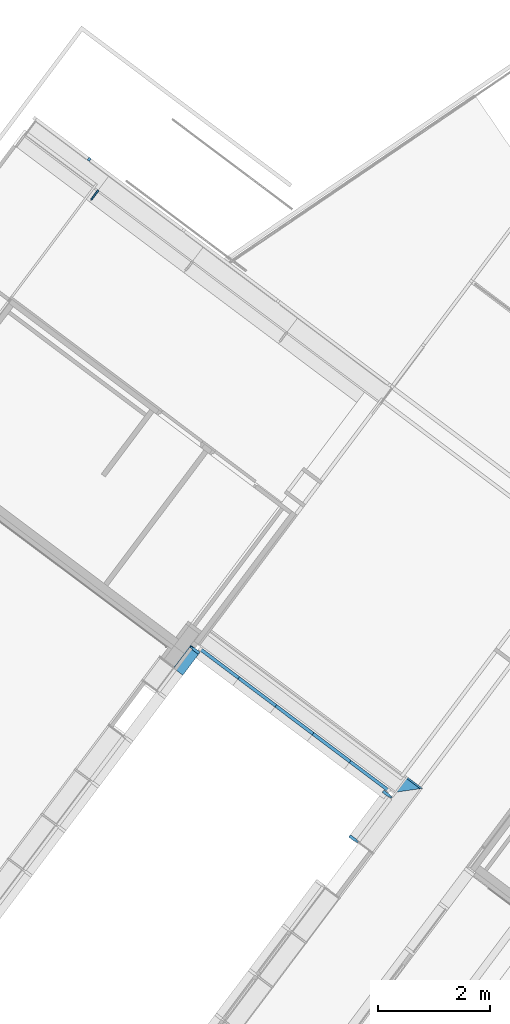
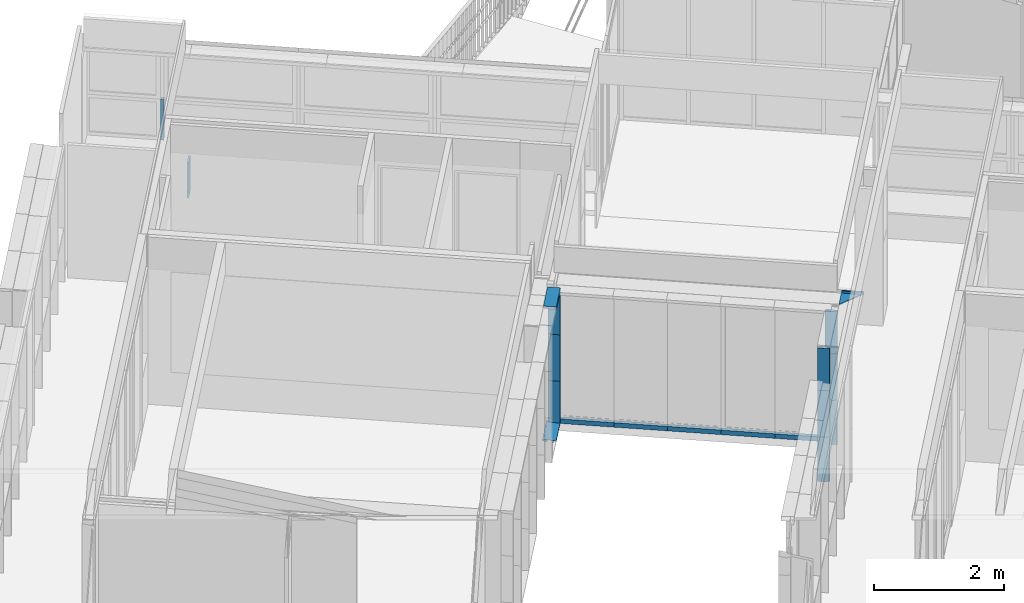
# One storey, part 101 of 243: 19 members, 6 elements without a shape of their own.
"""IFC2X3 building model written with IfcOpenShell, lengths in metres."""

from ifc_helpers import new_model, entity, si_unit, converted_unit, derived_unit, direction, frame, frame_2d, origin, place, context, subcontext, project, spatial, polyline, circle_curve, parameter, trimmed, segment, composite_curve, rectangle, outline, extrude, clip, halfspace, source, transform, mapped, material, type_object, type_shapes, element, aggregate, save


model = new_model("IFC2X3")

# Units and contexts
model_context = context("Model", 3, precision=1e-05, world=origin(), true_north=direction((6.123031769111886e-17, 1.0)))
body_context = subcontext(model_context, "Body", "Model", "MODEL_VIEW")
ifc_project = project(units=[si_unit("LENGTHUNIT", "METRE"), si_unit("AREAUNIT", "SQUARE_METRE"), si_unit("VOLUMEUNIT", "CUBIC_METRE"), converted_unit("PLANEANGLEUNIT", "DEGREE", entity("IfcRatioMeasure", 0.017453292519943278), si_unit("PLANEANGLEUNIT", "RADIAN"), dimensions=[0, 0, 0, 0, 0, 0, 0]), si_unit("MASSUNIT", "GRAM", prefix="KILO"), derived_unit("MASSDENSITYUNIT", [(si_unit("MASSUNIT", "GRAM", prefix="KILO"), 1), (si_unit("LENGTHUNIT", "METRE"), -3)]), derived_unit("IONCONCENTRATIONUNIT", [(si_unit("MASSUNIT", "GRAM", prefix="KILO"), 1), (si_unit("LENGTHUNIT", "METRE"), -3)]), derived_unit("MOMENTOFINERTIAUNIT", [(si_unit("LENGTHUNIT", "METRE"), 4)]), si_unit("TIMEUNIT", "SECOND"), si_unit("FREQUENCYUNIT", "HERTZ"), si_unit("THERMODYNAMICTEMPERATUREUNIT", "DEGREE_CELSIUS"), derived_unit("THERMALTRANSMITTANCEUNIT", [(si_unit("MASSUNIT", "GRAM", prefix="KILO"), 1), (si_unit("THERMODYNAMICTEMPERATUREUNIT", "KELVIN"), -1), (si_unit("TIMEUNIT", "SECOND"), -3)]), derived_unit("THERMALCONDUCTANCEUNIT", [(si_unit("MASSUNIT", "GRAM", prefix="KILO"), 1), (si_unit("THERMODYNAMICTEMPERATUREUNIT", "KELVIN"), -1), (si_unit("TIMEUNIT", "SECOND"), -3), (si_unit("LENGTHUNIT", "METRE"), 1)]), derived_unit("VOLUMETRICFLOWRATEUNIT", [(si_unit("LENGTHUNIT", "METRE"), 3), (si_unit("TIMEUNIT", "SECOND"), -1)]), derived_unit("MASSFLOWRATEUNIT", [(si_unit("MASSUNIT", "GRAM", prefix="KILO"), 1), (si_unit("TIMEUNIT", "SECOND"), -1)]), derived_unit("ROTATIONALFREQUENCYUNIT", [(si_unit("TIMEUNIT", "SECOND"), -1)]), si_unit("ELECTRICCURRENTUNIT", "AMPERE"), si_unit("ELECTRICVOLTAGEUNIT", "VOLT"), si_unit("POWERUNIT", "WATT"), si_unit("FORCEUNIT", "NEWTON", prefix="KILO"), si_unit("ILLUMINANCEUNIT", "LUX"), si_unit("LUMINOUSFLUXUNIT", "LUMEN"), si_unit("LUMINOUSINTENSITYUNIT", "CANDELA"), derived_unit("USERDEFINED", [(si_unit("MASSUNIT", "GRAM", prefix="KILO"), -1), (si_unit("LENGTHUNIT", "METRE"), -2), (si_unit("TIMEUNIT", "SECOND"), 3), (si_unit("LUMINOUSFLUXUNIT", "LUMEN"), 1)]), derived_unit("USERDEFINED", [(si_unit("MASSUNIT", "GRAM", prefix="KILO"), 1), (si_unit("TIMEUNIT", "SECOND"), -3), (si_unit("LENGTHUNIT", "METRE"), 3), (si_unit("ELECTRICCURRENTUNIT", "AMPERE"), -2)]), derived_unit("SOUNDPOWERUNIT", [(si_unit("MASSUNIT", "GRAM", prefix="KILO"), 1), (si_unit("TIMEUNIT", "SECOND"), -3), (si_unit("LENGTHUNIT", "METRE"), 2)]), derived_unit("SOUNDPRESSUREUNIT", [(si_unit("MASSUNIT", "GRAM", prefix="KILO"), 1), (si_unit("LENGTHUNIT", "METRE"), -1), (si_unit("TIMEUNIT", "SECOND"), -2)]), derived_unit("LINEARVELOCITYUNIT", [(si_unit("LENGTHUNIT", "METRE"), 1), (si_unit("TIMEUNIT", "SECOND"), -1)]), si_unit("PRESSUREUNIT", "PASCAL"), derived_unit("USERDEFINED", [(si_unit("MASSUNIT", "GRAM", prefix="KILO"), 1), (si_unit("LENGTHUNIT", "METRE"), -2), (si_unit("TIMEUNIT", "SECOND"), -2)]), derived_unit("LINEARFORCEUNIT", [(si_unit("MASSUNIT", "GRAM", prefix="KILO"), 1), (si_unit("TIMEUNIT", "SECOND"), -2)]), derived_unit("PLANARFORCEUNIT", [(si_unit("MASSUNIT", "GRAM", prefix="KILO"), 1), (si_unit("LENGTHUNIT", "METRE"), -1), (si_unit("TIMEUNIT", "SECOND"), -2)]), derived_unit("SPECIFICHEATCAPACITYUNIT", [(si_unit("THERMODYNAMICTEMPERATUREUNIT", "KELVIN"), -1), (si_unit("LENGTHUNIT", "METRE"), 2), (si_unit("TIMEUNIT", "SECOND"), -2)]), derived_unit("HEATINGVALUEUNIT", [(si_unit("LENGTHUNIT", "METRE"), 2), (si_unit("TIMEUNIT", "SECOND"), -2)]), derived_unit("VAPORPERMEABILITYUNIT", [(si_unit("LENGTHUNIT", "METRE"), -1), (si_unit("TIMEUNIT", "SECOND"), 1)]), derived_unit("DYNAMICVISCOSITYUNIT", [(si_unit("MASSUNIT", "GRAM", prefix="KILO"), 1), (si_unit("TIMEUNIT", "SECOND"), -1), (si_unit("LENGTHUNIT", "METRE"), -1)]), derived_unit("THERMALEXPANSIONCOEFFICIENTUNIT", [(si_unit("THERMODYNAMICTEMPERATUREUNIT", "KELVIN"), -1)]), derived_unit("MODULUSOFELASTICITYUNIT", [(si_unit("MASSUNIT", "GRAM", prefix="KILO"), 1), (si_unit("LENGTHUNIT", "METRE"), -1), (si_unit("TIMEUNIT", "SECOND"), -2)]), derived_unit("ISOTHERMALMOISTURECAPACITYUNIT", [(si_unit("LENGTHUNIT", "METRE"), 3), (si_unit("MASSUNIT", "GRAM", prefix="KILO"), -1)]), derived_unit("MOISTUREDIFFUSIVITYUNIT", [(si_unit("TIMEUNIT", "SECOND"), -1), (si_unit("LENGTHUNIT", "METRE"), 2)])], contexts=[model_context])

# Site, building, storey
site_placement = place(None, frame((0.0, 0.0, 235.0), z_axis=(0.0, 0.0, 1.0), x_axis=(-0.7996477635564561, 0.6004693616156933, 0.0)))
site = spatial("IfcSite", under=ifc_project, at=site_placement, Name="Default", CompositionType="ELEMENT")
building_placement = place(site_placement, origin())
building = spatial("IfcBuilding", under=site, at=building_placement, CompositionType="ELEMENT")
storey_placement = place(building_placement, origin())
storey = spatial("IfcBuildingStorey", under=building, at=storey_placement, Name="P0- Escola", CompositionType="ELEMENT", Elevation=0.0)

# Curtain wall, members
curtain_wall_type_1 = type_object("IfcCurtainWallType", Name="Muro cortina:MC- EXT- MC2", PredefinedType="NOTDEFINED")
curtain_wall_1_placement = place(storey_placement, origin())
curtain_wall_1 = element("IfcCurtainWall", 1, at=curtain_wall_1_placement, inside=storey, type_object=curtain_wall_type_1, Name="Muro cortina:MC- EXT- MC2", ObjectType="Muro cortina:MC- EXT- MC2")
ifc_material_1 = material(Name="_Alumini- T1- Perfil")
member_type_1 = type_object("IfcMemberType", Name="Montante rectangular:MC- Alu- 140x52,5 cm- Fa patis- Centre", PredefinedType="MULLION", material=ifc_material_1)
shared_shape_1 = source(origin(), body_context, "Body", "SweptSolid", [
    extrude(outline(polyline([(-0.11699999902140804, -0.026250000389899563), (0.021999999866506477, -0.026250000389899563), (0.021999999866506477, -0.015000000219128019), (0.07299999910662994, -0.015000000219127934), (0.07299999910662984, 0.015000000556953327), (0.02200000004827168, 0.015000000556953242), (0.02200000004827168, 0.026250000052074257), (-0.11699999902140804, 0.026250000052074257), (-0.11699999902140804, -0.026250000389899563)])), frame((-0.026250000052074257, 0.022999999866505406, -0.8750000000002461), z_axis=(0.0, 0.0, 1.0), x_axis=(0.0, -1.0, 0.0)), (0.0, 0.0, 1.0), 0.8750000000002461),
])
type_shapes(member_type_1, [shared_shape_1])
member_1_placement = place(curtain_wall_1_placement, frame((66.44514768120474, -36.44138994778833, 0.8200000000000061), z_axis=(0.0, 0.0, -1.0), x_axis=(0.0, -1.0, 0.0)))
member_1 = element("IfcMember", 2, at=member_1_placement, type_object=member_type_1, material=ifc_material_1, Name="Montante rectangular:MC- Alu- 140x52,5 cm- Fa patis- Centre", ObjectType="Montante rectangular:MC- Alu- 140x52,5 cm- Fa patis- Centre", context=body_context, shape_type="MappedRepresentation", body=[
    mapped(shared_shape_1, transform((0.0, 0.0, 0.0), scale=1.0)),
])
member_type_2 = type_object("IfcMemberType", Name="Montante rectangular:MC- Alu- 140x52,5 cm- Fa patis- Superior", PredefinedType="MULLION", material=ifc_material_1)
shared_shape_2 = source(origin(), body_context, "Body", "SweptSolid", [
    extrude(outline(polyline([(-0.11366666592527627, -0.021249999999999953), (0.02633333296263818, -0.021249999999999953), (0.02633333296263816, -0.010000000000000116), (0.08733333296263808, -0.010000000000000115), (0.08733333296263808, 0.03125000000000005), (-0.11366666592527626, 0.031250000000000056), (-0.11366666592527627, -0.021249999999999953)])), frame((-0.031250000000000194, 0.027333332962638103, -0.518199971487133), z_axis=(0.0, 0.0, 1.0), x_axis=(0.0, -1.0, 0.0)), (0.0, 0.0, 1.0), 0.518199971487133),
])
type_shapes(member_type_2, [shared_shape_2])
member_2_placement = place(curtain_wall_1_placement, frame((66.44514768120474, -36.44138994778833, 2.545), z_axis=(0.0, -1.0, 0.0), x_axis=(0.0, 0.0, 1.0)))
member_2 = element("IfcMember", 3, at=member_2_placement, type_object=member_type_2, material=ifc_material_1, Name="Montante rectangular:MC- Alu- 140x52,5 cm- Fa patis- Superior", ObjectType="Montante rectangular:MC- Alu- 140x52,5 cm- Fa patis- Superior", context=body_context, shape_type="MappedRepresentation", body=[
    mapped(shared_shape_2, transform((0.0, 0.0, 0.0), scale=1.0)),
])
member_type_3 = type_object("IfcMemberType", Name="Montante rectangular:MC- Alu- 140x52,5 cm- Fa patis- Centre", PredefinedType="MULLION", material=ifc_material_1)
shared_shape_3 = source(origin(), body_context, "Body", "SweptSolid", [
    extrude(outline(polyline([(-0.11699999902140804, -0.026250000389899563), (0.021999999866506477, -0.026250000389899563), (0.021999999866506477, -0.015000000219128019), (0.07299999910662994, -0.015000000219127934), (0.07299999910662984, 0.015000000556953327), (0.02200000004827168, 0.015000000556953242), (0.02200000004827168, 0.026250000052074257), (-0.11699999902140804, 0.026250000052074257), (-0.11699999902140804, -0.026250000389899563)])), frame((-0.026250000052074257, 0.022999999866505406, -0.7850000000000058), z_axis=(0.0, 0.0, 1.0), x_axis=(0.0, -1.0, 0.0)), (0.0, 0.0, 1.0), 0.7850000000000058),
])
type_shapes(member_type_3, [shared_shape_3])
member_3_placement = place(curtain_wall_1_placement, frame((66.44514768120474, -36.44138994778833, 0.035000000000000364), z_axis=(0.0, 0.0, -1.0), x_axis=(0.0, -1.0, 0.0)))
member_3 = element("IfcMember", 4, at=member_3_placement, type_object=member_type_3, material=ifc_material_1, Name="Montante rectangular:MC- Alu- 140x52,5 cm- Fa patis- Centre", ObjectType="Montante rectangular:MC- Alu- 140x52,5 cm- Fa patis- Centre", context=body_context, shape_type="MappedRepresentation", body=[
    mapped(shared_shape_3, transform((0.0, 0.0, 0.0), scale=1.0)),
])
member_type_4 = type_object("IfcMemberType", Name="Montante rectangular:MC- Alu- 140x52,5 cm- Fa patis- inferior", PredefinedType="MULLION", material=ifc_material_1)
shared_shape_4 = source(origin(), body_context, "Body", "SweptSolid", [
    extrude(outline(composite_curve([segment(polyline([(0.1278672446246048, -0.025867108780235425), (0.14416724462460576, -0.025867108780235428)]), True, "CONTINUOUS"), segment(polyline([(0.14416724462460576, -0.025867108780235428), (0.1441672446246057, 0.009132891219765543)]), True, "CONTINUOUS"), segment(polyline([(0.1441672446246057, 0.009132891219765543), (0.06786724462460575, 0.00913289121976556)]), True, "CONTINUOUS"), segment(polyline([(0.06786724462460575, 0.00913289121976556), (0.06786724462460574, -0.021159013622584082)]), True, "CONTINUOUS"), segment(polyline([(0.06786724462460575, -0.021159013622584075), (-0.030132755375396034, -0.012332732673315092)]), True, "CONTINUOUS"), segment(polyline([(-0.03013275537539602, -0.012332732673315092), (-0.030132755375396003, 0.02713289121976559)]), True, "CONTINUOUS"), segment(polyline([(-0.030132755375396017, 0.027132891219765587), (-0.0021327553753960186, 0.027132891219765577)]), True, "CONTINUOUS"), segment(polyline([(-0.0021327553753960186, 0.02713289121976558), (-0.0021327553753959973, 0.02913289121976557)]), True, "CONTINUOUS"), segment(polyline([(-0.0021327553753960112, 0.02913289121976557), (-0.032132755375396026, 0.029132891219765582)]), True, "CONTINUOUS"), segment(polyline([(-0.032132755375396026, 0.029132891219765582), (-0.03213275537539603, -0.012152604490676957)]), True, "CONTINUOUS"), segment(polyline([(-0.03213275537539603, -0.012152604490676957), (-0.0701327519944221, -0.008730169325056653)]), True, "CONTINUOUS"), segment(polyline([(-0.0701327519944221, -0.008730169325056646), (-0.0701327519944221, 0.005766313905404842)]), True, "CONTINUOUS"), segment(trimmed(circle_curve(frame_2d((-0.0696327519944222, 0.00576631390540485), x_axis=(-1.0, 0.0)), 0.0004999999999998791), [parameter(269.999999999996)], [parameter(0.0)], True, "PARAMETER"), False, "CONTINUOUS"), segment(polyline([(-0.0696327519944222, 0.0062663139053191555), (-0.06213275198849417, 0.006266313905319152)]), True, "CONTINUOUS"), segment(polyline([(-0.06213275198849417, 0.006266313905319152), (-0.06213275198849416, 0.008266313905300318)]), True, "CONTINUOUS"), segment(polyline([(-0.06213275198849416, 0.008266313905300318), (-0.07013275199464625, 0.00826631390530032)]), True, "CONTINUOUS"), segment(trimmed(circle_curve(frame_2d((-0.07013275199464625, 0.006266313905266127), x_axis=(0.0, 1.0)), 0.0020000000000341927), [parameter(0.0)], [parameter(90.00000002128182)], True, "PARAMETER"), True, "CONTINUOUS"), segment(polyline([(-0.07213275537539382, 0.00626631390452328), (-0.07213275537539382, -0.008730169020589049)]), True, "CONTINUOUS"), segment(trimmed(circle_curve(frame_2d((-0.07013275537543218, -0.008730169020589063), x_axis=(-1.0, 0.0)), 0.0019999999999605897), [parameter(0.0)], [parameter(84.85359280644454)], True, "PARAMETER"), True, "CONTINUOUS"), segment(polyline([(-0.07031215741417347, -0.010722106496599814), (0.06786724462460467, -0.023167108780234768)]), True, "CONTINUOUS"), segment(polyline([(0.06786724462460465, -0.02316710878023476), (0.12786724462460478, -0.02316710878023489)]), True, "CONTINUOUS"), segment(polyline([(0.12786724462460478, -0.02316710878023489), (0.1278672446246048, -0.025867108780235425)]), True, "CONTINUOUS")], self_intersect=False)), frame((-0.029132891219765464, 0.06786724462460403, -0.518199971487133), z_axis=(0.0, 0.0, 1.0), x_axis=(0.0, -1.0, 0.0)), (0.0, 0.0, 1.0), 0.518199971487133),
])
type_shapes(member_type_4, [shared_shape_4])
member_4_placement = place(curtain_wall_1_placement, frame((66.44514768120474, -35.9231899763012, -0.02), z_axis=(0.0, 1.0, 0.0), x_axis=(0.0, 0.0, -1.0)))
member_4 = element("IfcMember", 5, at=member_4_placement, type_object=member_type_4, material=ifc_material_1, Name="Montante rectangular:MC- Alu- 140x52,5 cm- Fa patis- inferior", ObjectType="Montante rectangular:MC- Alu- 140x52,5 cm- Fa patis- inferior", context=body_context, shape_type="MappedRepresentation", body=[
    mapped(shared_shape_4, transform((0.0, 0.0, 0.0), scale=1.0)),
])
member_type_5 = type_object("IfcMemberType", Name="Montante rectangular:MC- Alu- 140x52,5 cm- Fa patis- Centre", PredefinedType="MULLION", material=ifc_material_1)
shared_shape_5 = source(origin(), body_context, "Body", "SweptSolid", [
    extrude(outline(polyline([(-0.11699999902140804, -0.026250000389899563), (0.021999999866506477, -0.026250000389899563), (0.021999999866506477, -0.015000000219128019), (0.07299999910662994, -0.015000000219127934), (0.07299999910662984, 0.015000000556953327), (0.02200000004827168, 0.015000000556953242), (0.02200000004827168, 0.026250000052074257), (-0.11699999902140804, 0.026250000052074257), (-0.11699999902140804, -0.026250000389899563)])), frame((-0.026250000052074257, 0.022999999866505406, -0.79749999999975), z_axis=(0.0, 0.0, 1.0), x_axis=(0.0, -1.0, 0.0)), (0.0, 0.0, 1.0), 0.79749999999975),
])
type_shapes(member_type_5, [shared_shape_5])
member_5_placement = place(curtain_wall_1_placement, frame((66.44514768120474, -36.44138994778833, 1.6950000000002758), z_axis=(0.0, 0.0, -1.0), x_axis=(0.0, -1.0, 0.0)))
member_5 = element("IfcMember", 6, at=member_5_placement, type_object=member_type_5, material=ifc_material_1, Name="Montante rectangular:MC- Alu- 140x52,5 cm- Fa patis- Centre", ObjectType="Montante rectangular:MC- Alu- 140x52,5 cm- Fa patis- Centre", context=body_context, shape_type="MappedRepresentation", body=[
    mapped(shared_shape_5, transform((0.0, 0.0, 0.0), scale=1.0)),
])
aggregate(curtain_wall_1, [member_2, member_3, member_4, member_1, member_5])

curtain_wall_type_2 = type_object("IfcCurtainWallType", Name="Muro cortina:MC- EXT- MC5", PredefinedType="NOTDEFINED")
curtain_wall_2_placement = place(storey_placement, origin())
curtain_wall_2 = element("IfcCurtainWall", 7, at=curtain_wall_2_placement, inside=storey, type_object=curtain_wall_type_2, Name="Muro cortina:MC- EXT- MC5", ObjectType="Muro cortina:MC- EXT- MC5")
member_type_6 = type_object("IfcMemberType", Name="Montante rectangular:MC- Alu- 140x52,5 cm- Fa patis- Centre", PredefinedType="MULLION", material=ifc_material_1)
shared_shape_6 = source(origin(), body_context, "Body", "SweptSolid", [
    extrude(outline(polyline([(-0.021999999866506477, -0.026250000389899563), (0.11699999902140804, -0.026250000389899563), (0.11699999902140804, 0.026250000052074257), (-0.02200000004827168, 0.026250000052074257), (-0.02200000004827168, 0.015000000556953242), (-0.07299999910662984, 0.015000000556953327), (-0.07299999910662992, -0.015000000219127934), (-0.021999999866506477, -0.015000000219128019), (-0.021999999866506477, -0.026250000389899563)])), frame((-0.026250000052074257, -0.022999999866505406, -0.8400000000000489), z_axis=(0.0, 0.0, 1.0), x_axis=(0.0, -1.0, 0.0)), (0.0, 0.0, 1.0), 0.8400000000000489),
])
type_shapes(member_type_6, [shared_shape_6])
member_6_placement = place(curtain_wall_2_placement, frame((62.04514768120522, -36.44138994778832, -0.02), z_axis=(0.0, 0.0, -1.0), x_axis=(0.0, -1.0, 0.0)))
member_6 = element("IfcMember", 8, at=member_6_placement, type_object=member_type_6, material=ifc_material_1, Name="Montante rectangular:MC- Alu- 140x52,5 cm- Fa patis- Centre", ObjectType="Montante rectangular:MC- Alu- 140x52,5 cm- Fa patis- Centre", context=body_context, shape_type="MappedRepresentation", body=[
    mapped(shared_shape_6, transform((0.0, 0.0, 0.0), scale=1.0)),
])
member_type_7 = type_object("IfcMemberType", Name="Montante rectangular:MC- Alu- 140x52,5 cm- Fa patis- Centre", PredefinedType="MULLION", material=ifc_material_1)
shared_shape_7 = source(origin(), body_context, "Body", "SweptSolid", [
    extrude(outline(polyline([(-0.021999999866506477, -0.026250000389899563), (0.11699999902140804, -0.026250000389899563), (0.11699999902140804, 0.026250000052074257), (-0.02200000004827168, 0.026250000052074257), (-0.02200000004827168, 0.015000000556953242), (-0.07299999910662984, 0.015000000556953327), (-0.07299999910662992, -0.015000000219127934), (-0.021999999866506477, -0.015000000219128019), (-0.021999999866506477, -0.026250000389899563)])), frame((-0.026250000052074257, -0.022999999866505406, -0.8750000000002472), z_axis=(0.0, 0.0, 1.0), x_axis=(0.0, -1.0, 0.0)), (0.0, 0.0, 1.0), 0.8750000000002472),
])
type_shapes(member_type_7, [shared_shape_7])
member_7_placement = place(curtain_wall_2_placement, frame((62.04514768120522, -36.44138994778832, 0.8200000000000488), z_axis=(0.0, 0.0, -1.0), x_axis=(0.0, -1.0, 0.0)))
member_7 = element("IfcMember", 9, at=member_7_placement, type_object=member_type_7, material=ifc_material_1, Name="Montante rectangular:MC- Alu- 140x52,5 cm- Fa patis- Centre", ObjectType="Montante rectangular:MC- Alu- 140x52,5 cm- Fa patis- Centre", context=body_context, shape_type="MappedRepresentation", body=[
    mapped(shared_shape_7, transform((0.0, 0.0, 0.0), scale=1.0)),
])
member_type_8 = type_object("IfcMemberType", Name="Montante rectangular:MC- Alu- 140x52,5 cm- Fa patis- Centre", PredefinedType="MULLION", material=ifc_material_1)
shared_shape_8 = source(origin(), body_context, "Body", "SweptSolid", [
    extrude(outline(polyline([(-0.021999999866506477, -0.026250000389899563), (0.11699999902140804, -0.026250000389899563), (0.11699999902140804, 0.026250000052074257), (-0.02200000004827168, 0.026250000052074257), (-0.02200000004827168, 0.015000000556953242), (-0.07299999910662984, 0.015000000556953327), (-0.07299999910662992, -0.01500000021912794), (-0.021999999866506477, -0.01500000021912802), (-0.021999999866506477, -0.026250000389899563)])), frame((0.0, -0.022999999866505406, -0.8750000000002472), z_axis=(0.0, 0.0, 1.0), x_axis=(0.0, -1.0, 0.0)), (0.0, 0.0, 1.0), 0.8750000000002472),
])
type_shapes(member_type_8, [shared_shape_8])
member_8_placement = place(curtain_wall_2_placement, frame((62.04514768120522, -35.41519175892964, 0.8200000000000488), z_axis=(0.0, 0.0, -1.0), x_axis=(0.0, -1.0, 0.0)))
member_8 = element("IfcMember", 10, at=member_8_placement, type_object=member_type_8, material=ifc_material_1, Name="Montante rectangular:MC- Alu- 140x52,5 cm- Fa patis- Centre", ObjectType="Montante rectangular:MC- Alu- 140x52,5 cm- Fa patis- Centre", context=body_context, shape_type="MappedRepresentation", body=[
    mapped(shared_shape_8, transform((0.0, 0.0, 0.0), scale=1.0)),
])
member_type_9 = type_object("IfcMemberType", Name="Montante rectangular:MC- Alu- 140x52,5 cm- Fa patis- Centre", PredefinedType="MULLION", material=ifc_material_1)
shared_shape_9 = source(origin(), body_context, "Body", "SweptSolid", [
    extrude(outline(polyline([(-0.021999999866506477, -0.026250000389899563), (0.11699999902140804, -0.026250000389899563), (0.11699999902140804, 0.026250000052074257), (-0.02200000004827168, 0.026250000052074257), (-0.02200000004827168, 0.015000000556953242), (-0.07299999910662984, 0.015000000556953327), (-0.07299999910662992, -0.01500000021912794), (-0.021999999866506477, -0.01500000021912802), (-0.021999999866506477, -0.026250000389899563)])), frame((0.0, -0.022999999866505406, -0.8400000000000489), z_axis=(0.0, 0.0, 1.0), x_axis=(0.0, -1.0, 0.0)), (0.0, 0.0, 1.0), 0.8400000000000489),
])
type_shapes(member_type_9, [shared_shape_9])
member_9_placement = place(curtain_wall_2_placement, frame((62.04514768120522, -35.41519175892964, -0.02), z_axis=(0.0, 0.0, -1.0), x_axis=(0.0, -1.0, 0.0)))
member_9 = element("IfcMember", 11, at=member_9_placement, type_object=member_type_9, material=ifc_material_1, Name="Montante rectangular:MC- Alu- 140x52,5 cm- Fa patis- Centre", ObjectType="Montante rectangular:MC- Alu- 140x52,5 cm- Fa patis- Centre", context=body_context, shape_type="MappedRepresentation", body=[
    mapped(shared_shape_9, transform((0.0, 0.0, 0.0), scale=1.0)),
])
member_type_10 = type_object("IfcMemberType", Name="Montante rectangular:MC- Alu- 140x52,5 cm- Fa patis- Centre", PredefinedType="MULLION", material=ifc_material_1)
shared_shape_10 = source(origin(), body_context, "Body", "SweptSolid", [
    extrude(outline(polyline([(-0.021999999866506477, -0.026250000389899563), (0.11699999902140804, -0.026250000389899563), (0.11699999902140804, 0.026250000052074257), (-0.02200000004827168, 0.026250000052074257), (-0.02200000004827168, 0.015000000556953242), (-0.07299999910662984, 0.015000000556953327), (-0.07299999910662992, -0.015000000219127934), (-0.021999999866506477, -0.015000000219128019), (-0.021999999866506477, -0.026250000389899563)])), frame((-0.026250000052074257, -0.022999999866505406, -0.7974999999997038), z_axis=(0.0, 0.0, 1.0), x_axis=(0.0, -1.0, 0.0)), (0.0, 0.0, 1.0), 0.7974999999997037),
])
type_shapes(member_type_10, [shared_shape_10])
member_10_placement = place(curtain_wall_2_placement, frame((62.04514768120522, -36.44138994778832, 1.695000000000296), z_axis=(0.0, 0.0, -1.0), x_axis=(0.0, -1.0, 0.0)))
member_10 = element("IfcMember", 12, at=member_10_placement, type_object=member_type_10, material=ifc_material_1, Name="Montante rectangular:MC- Alu- 140x52,5 cm- Fa patis- Centre", ObjectType="Montante rectangular:MC- Alu- 140x52,5 cm- Fa patis- Centre", context=body_context, shape_type="MappedRepresentation", body=[
    mapped(shared_shape_10, transform((0.0, 0.0, 0.0), scale=1.0)),
])
member_type_11 = type_object("IfcMemberType", Name="Montante rectangular:MC- Alu- 140x52,5 cm- Fa patis- Centre", PredefinedType="MULLION", material=ifc_material_1)
shared_shape_11 = source(origin(), body_context, "Body", "SweptSolid", [
    extrude(outline(polyline([(-0.021999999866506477, -0.026250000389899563), (0.11699999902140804, -0.026250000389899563), (0.11699999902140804, 0.026250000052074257), (-0.02200000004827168, 0.026250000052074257), (-0.02200000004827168, 0.015000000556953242), (-0.07299999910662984, 0.015000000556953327), (-0.07299999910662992, -0.01500000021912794), (-0.021999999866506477, -0.01500000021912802), (-0.021999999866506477, -0.026250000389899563)])), frame((0.0, -0.022999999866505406, -0.7974999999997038), z_axis=(0.0, 0.0, 1.0), x_axis=(0.0, -1.0, 0.0)), (0.0, 0.0, 1.0), 0.7974999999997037),
])
type_shapes(member_type_11, [shared_shape_11])
member_11_placement = place(curtain_wall_2_placement, frame((62.04514768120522, -35.41519175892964, 1.695000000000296), z_axis=(0.0, 0.0, -1.0), x_axis=(0.0, -1.0, 0.0)))
member_11 = element("IfcMember", 13, at=member_11_placement, type_object=member_type_11, material=ifc_material_1, Name="Montante rectangular:MC- Alu- 140x52,5 cm- Fa patis- Centre", ObjectType="Montante rectangular:MC- Alu- 140x52,5 cm- Fa patis- Centre", context=body_context, shape_type="MappedRepresentation", body=[
    mapped(shared_shape_11, transform((0.0, 0.0, 0.0), scale=1.0)),
])
aggregate(curtain_wall_2, [member_6, member_7, member_8, member_9, member_10, member_11])

# Curtain wall, member
curtain_wall_type_3 = type_object("IfcCurtainWallType", Name="Muro cortina:MC- EXT- MC6", PredefinedType="NOTDEFINED")
curtain_wall_3_placement = place(storey_placement, origin())
curtain_wall_3 = element("IfcCurtainWall", 14, at=curtain_wall_3_placement, inside=storey, type_object=curtain_wall_type_3, Name="Muro cortina:MC- EXT- MC6", ObjectType="Muro cortina:MC- EXT- MC6")
member_type_12 = type_object("IfcMemberType", Name="Montante rectangular:MC- Alu- 50x60 cm- Fa pista- Centre", PredefinedType="MULLION", material=ifc_material_1)
shared_shape_12 = source(origin(), body_context, "Body", "SweptSolid", [
    extrude(rectangle(XDim=0.0600000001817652, YDim=0.05, at=frame_2d((8.673617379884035e-18, 0.0), x_axis=(1.0, 0.0))), frame((0.0, -0.030000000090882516, -0.77), z_axis=(0.0, 0.0, 1.0), x_axis=(0.0, -1.0, 0.0)), (0.0, 0.0, 1.0), 0.77),
])
type_shapes(member_type_12, [shared_shape_12])
member_12_placement = place(curtain_wall_3_placement, frame((73.19855280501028, -42.340191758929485, 0.685), z_axis=(0.0, 0.0, -1.0), x_axis=(1.0, 0.0, 0.0)))
member_12 = element("IfcMember", 15, at=member_12_placement, type_object=member_type_12, material=ifc_material_1, Name="Montante rectangular:MC- Alu- 50x60 cm- Fa pista- Centre", ObjectType="Montante rectangular:MC- Alu- 50x60 cm- Fa pista- Centre", context=body_context, shape_type="MappedRepresentation", body=[
    mapped(shared_shape_12, transform((0.0, 0.0, 0.0), scale=1.0)),
])
aggregate(curtain_wall_3, [member_12])

curtain_wall_type_4 = type_object("IfcCurtainWallType", PredefinedType="NOTDEFINED")
curtain_wall_4_placement = place(storey_placement, origin())
curtain_wall_4 = element("IfcCurtainWall", 16, at=curtain_wall_4_placement, inside=storey, type_object=curtain_wall_type_4)
ifc_material_2 = material(Name="_Fusta massisa- T1")
member_type_13 = type_object("IfcMemberType", Name="Montante rectangular:MC- Fusta- 34x3 cm- Fa Pista- Pota taula", PredefinedType="MULLION", material=ifc_material_2)
shared_shape_13 = source(origin(), body_context, "Body", "SweptSolid", [
    extrude(rectangle(XDim=0.21000000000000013, YDim=0.03000000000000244, at=frame_2d((0.0, -1.682681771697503e-16), x_axis=(1.0, 0.0))), frame((0.0, 0.1700000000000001, -0.655000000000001), z_axis=(0.0, 0.0, 1.0), x_axis=(0.0, -1.0, 0.0)), (0.0, 0.0, 1.0), 0.655000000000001),
])
type_shapes(member_type_13, [shared_shape_13])
member_13_placement = place(curtain_wall_4_placement, frame((72.73648814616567, -42.030191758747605, 0.0), z_axis=(0.0, 0.0, -1.0), x_axis=(-1.0, 0.0, 0.0)))
member_13 = element("IfcMember", 17, at=member_13_placement, type_object=member_type_13, material=ifc_material_2, Name="Montante rectangular:MC- Fusta- 34x3 cm- Fa Pista- Pota taula", ObjectType="Montante rectangular:MC- Fusta- 34x3 cm- Fa Pista- Pota taula", context=body_context, shape_type="MappedRepresentation", body=[
    mapped(shared_shape_13, transform((0.0, 0.0, 0.0), scale=1.0)),
])
aggregate(curtain_wall_4, [member_13])

curtain_wall_type_5 = type_object("IfcCurtainWallType", Name="Muro cortina:MC- INT- k2", PredefinedType="NOTDEFINED")
curtain_wall_5_placement = place(storey_placement, origin())
curtain_wall_5 = element("IfcCurtainWall", 18, at=curtain_wall_5_placement, inside=storey, type_object=curtain_wall_type_5, Name="Muro cortina:MC- INT- k2", ObjectType="Muro cortina:MC- INT- k2")
member_type_14 = type_object("IfcMemberType", Name="Montante rectangular:MC- Fusta- 35x3 cm- Pati aules- Remat superior", PredefinedType="MULLION", material=ifc_material_2)
shared_shape_14 = source(origin(), body_context, "Body", "SweptSolid", [
    clip(extrude(outline(polyline([(-0.12166666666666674, -0.02666666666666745), (0.21333333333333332, -0.02666666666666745), (0.2133333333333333, -0.006666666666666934), (-0.09166666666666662, -0.006666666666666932), (-0.09166666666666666, 0.03333333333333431), (-0.12166666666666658, 0.03333333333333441), (-0.12166666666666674, -0.02666666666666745)])), frame((-0.033333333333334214, -0.026666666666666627, -0.34000000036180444), z_axis=(0.0, 0.0, 1.0), x_axis=(0.0, -1.0, 0.0)), (0.0, 0.0, 1.0), 0.34000000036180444), halfspace(frame((0.3048, 0.0, -0.24500000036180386), z_axis=(0.0, -0.7071067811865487, -0.7071067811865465), x_axis=(0.0, -0.7071067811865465, 0.7071067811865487)), False)),
])
type_shapes(member_type_14, [shared_shape_14])
member_14_placement = place(curtain_wall_5_placement, frame((61.990147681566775, -36.785189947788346, 2.565), z_axis=(1.0, 0.0, 0.0), x_axis=(0.0, 0.0, 1.0)))
member_14 = element("IfcMember", 19, at=member_14_placement, type_object=member_type_14, material=ifc_material_2, Name="Montante rectangular:MC- Fusta- 35x3 cm- Pati aules- Remat superior", ObjectType="Montante rectangular:MC- Fusta- 35x3 cm- Pati aules- Remat superior", context=body_context, shape_type="MappedRepresentation", body=[
    mapped(shared_shape_14, transform((0.0, 0.0, 0.0), scale=1.0)),
])
aggregate(curtain_wall_5, [member_14])

# Curtain wall, members
curtain_wall_type_6 = type_object("IfcCurtainWallType", PredefinedType="NOTDEFINED")
curtain_wall_6_placement = place(storey_placement, origin())
curtain_wall_6 = element("IfcCurtainWall", 20, at=curtain_wall_6_placement, inside=storey, type_object=curtain_wall_type_6)
member_type_15 = type_object("IfcMemberType", Name="Montante rectangular:MC- Alu- 52x80 cm- Fa pista- inferior", PredefinedType="MULLION", material=ifc_material_1)
shared_shape_15 = source(origin(), body_context, "Body", "SweptSolid", [
    extrude(rectangle(XDim=0.06000000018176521, YDim=0.08500000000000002, at=frame_2d((-5.204170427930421e-18, -6.938893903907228e-18), x_axis=(1.0, 0.0))), frame((-0.0425, 0.030000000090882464, -0.8858000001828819), z_axis=(0.0, 0.0, 1.0), x_axis=(0.0, -1.0, 0.0)), (0.0, 0.0, 1.0), 0.8858000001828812),
])
type_shapes(member_type_15, [shared_shape_15])
member_15_placement = place(curtain_wall_6_placement, frame((62.09014768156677, -36.45518994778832, -0.02), z_axis=(-1.0, 0.0, 0.0), x_axis=(0.0, 0.0, -1.0)))
member_15 = element("IfcMember", 21, at=member_15_placement, type_object=member_type_15, material=ifc_material_1, Name="Montante rectangular:MC- Alu- 52x80 cm- Fa pista- inferior", ObjectType="Montante rectangular:MC- Alu- 52x80 cm- Fa pista- inferior", context=body_context, shape_type="MappedRepresentation", body=[
    mapped(shared_shape_15, transform((0.0, 0.0, 0.0), scale=1.0)),
])
member_type_16 = type_object("IfcMemberType", Name="Montante rectangular:MC- Alu- 52x80 cm- Fa pista- inferior", PredefinedType="MULLION", material=ifc_material_1)
shared_shape_16 = source(origin(), body_context, "Body", "SweptSolid", [
    extrude(rectangle(XDim=0.06000000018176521, YDim=0.08500000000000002, at=frame_2d((-5.204170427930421e-18, -6.938893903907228e-18), x_axis=(1.0, 0.0))), frame((-0.0425, 0.030000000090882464, -0.8327999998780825), z_axis=(0.0, 0.0, 1.0), x_axis=(0.0, -1.0, 0.0)), (0.0, 0.0, 1.0), 0.8327999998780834),
])
type_shapes(member_type_16, [shared_shape_16])
member_16_placement = place(curtain_wall_6_placement, frame((62.97594768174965, -36.45518994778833, -0.02), z_axis=(-1.0, 0.0, 0.0), x_axis=(0.0, 0.0, -1.0)))
member_16 = element("IfcMember", 22, at=member_16_placement, type_object=member_type_16, material=ifc_material_1, Name="Montante rectangular:MC- Alu- 52x80 cm- Fa pista- inferior", ObjectType="Montante rectangular:MC- Alu- 52x80 cm- Fa pista- inferior", context=body_context, shape_type="MappedRepresentation", body=[
    mapped(shared_shape_16, transform((0.0, 0.0, 0.0), scale=1.0)),
])
member_17_placement = place(curtain_wall_6_placement, frame((63.808747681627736, -36.45518994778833, -0.02), z_axis=(-1.0, 0.0, 0.0), x_axis=(0.0, 0.0, -1.0)))
member_17 = element("IfcMember", 23, at=member_17_placement, type_object=member_type_16, material=ifc_material_1, Name="Montante rectangular:MC- Alu- 52x80 cm- Fa pista- inferior", ObjectType="Montante rectangular:MC- Alu- 52x80 cm- Fa pista- inferior", context=body_context, shape_type="MappedRepresentation", body=[
    mapped(shared_shape_16, transform((0.0, 0.0, 0.0), scale=1.0)),
])
member_18_placement = place(curtain_wall_6_placement, frame((64.64154768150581, -36.45518994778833, -0.02), z_axis=(-1.0, 0.0, 0.0), x_axis=(0.0, 0.0, -1.0)))
member_18 = element("IfcMember", 24, at=member_18_placement, type_object=member_type_16, material=ifc_material_1, Name="Montante rectangular:MC- Alu- 52x80 cm- Fa pista- inferior", ObjectType="Montante rectangular:MC- Alu- 52x80 cm- Fa pista- inferior", context=body_context, shape_type="MappedRepresentation", body=[
    mapped(shared_shape_16, transform((0.0, 0.0, 0.0), scale=1.0)),
])
member_type_17 = type_object("IfcMemberType", Name="Montante rectangular:MC- Alu- 52x80 cm- Fa pista- inferior", PredefinedType="MULLION", material=ifc_material_1)
shared_shape_17 = source(origin(), body_context, "Body", "SweptSolid", [
    extrude(rectangle(XDim=0.06000000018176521, YDim=0.08500000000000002, at=frame_2d((-5.204170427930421e-18, -6.938893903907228e-18), x_axis=(1.0, 0.0))), frame((-0.0425, 0.030000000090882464, -0.8858000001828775), z_axis=(0.0, 0.0, 1.0), x_axis=(0.0, -1.0, 0.0)), (0.0, 0.0, 1.0), 0.8858000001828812),
])
type_shapes(member_type_17, [shared_shape_17])
member_19_placement = place(curtain_wall_6_placement, frame((65.47434768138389, -36.455189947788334, -0.02), z_axis=(-1.0, 0.0, 0.0), x_axis=(0.0, 0.0, -1.0)))
member_19 = element("IfcMember", 25, at=member_19_placement, type_object=member_type_17, material=ifc_material_1, Name="Montante rectangular:MC- Alu- 52x80 cm- Fa pista- inferior", ObjectType="Montante rectangular:MC- Alu- 52x80 cm- Fa pista- inferior", context=body_context, shape_type="MappedRepresentation", body=[
    mapped(shared_shape_17, transform((0.0, 0.0, 0.0), scale=1.0)),
])
aggregate(curtain_wall_6, [member_15, member_16, member_17, member_18, member_19])

save(model, "model.ifc")
